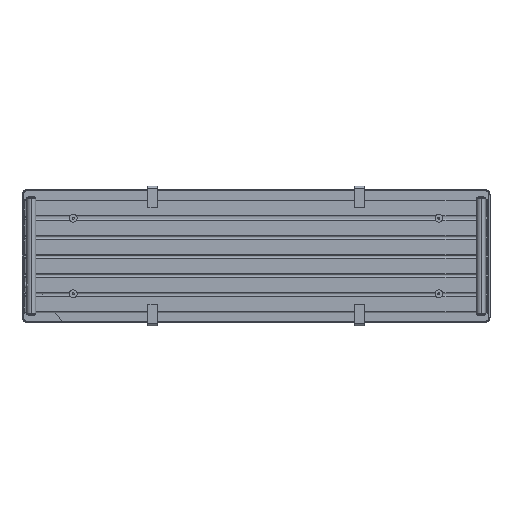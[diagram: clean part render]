
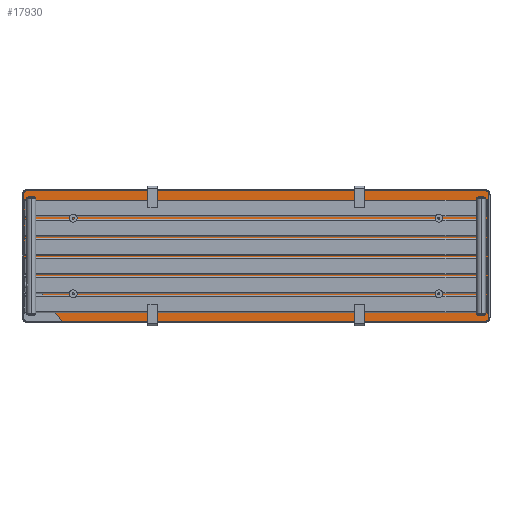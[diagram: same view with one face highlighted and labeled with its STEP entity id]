
A CAD part, left-side view. The second image highlights one B-rep face of the part: STEP entity #17930.
In plain terms, the highlighted planar face has unit normal (-1, 0, 0) as drawn and (0, 0, -1) by its records, which use the part's own axes.
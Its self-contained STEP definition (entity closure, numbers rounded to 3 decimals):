
#444 = EDGE_CURVE ( 'NONE', #9313, #4637, #2304, .T. ) ;
#529 = CARTESIAN_POINT ( 'NONE',  ( 256., -895., 42. ) ) ;
#1282 = VECTOR ( 'NONE', #17159, 1000. ) ;
#1664 = EDGE_CURVE ( 'NONE', #18488, #16805, #7168, .T. ) ;
#2304 = LINE ( 'NONE', #20438, #7841 ) ;
#2549 = DIRECTION ( 'NONE',  ( -1., 0., 0. ) ) ;
#2697 = AXIS2_PLACEMENT_3D ( 'NONE', #9433, #5908, #14839 ) ;
#2980 = ORIENTED_EDGE ( 'NONE', *, *, #17771, .F. ) ;
#3009 = PLANE ( 'NONE',  #22100 ) ;
#3394 = CARTESIAN_POINT ( 'NONE',  ( -240., -911., 42. ) ) ;
#3703 = CARTESIAN_POINT ( 'NONE',  ( -240., -895., 42. ) ) ;
#3960 = CARTESIAN_POINT ( 'NONE',  ( -240., 911., 42. ) ) ;
#3994 = EDGE_CURVE ( 'NONE', #16805, #16055, #21126, .T. ) ;
#4092 = CARTESIAN_POINT ( 'NONE',  ( -240., 911., 42. ) ) ;
#4637 = VERTEX_POINT ( 'NONE', #11803 ) ;
#5479 = EDGE_CURVE ( 'NONE', #16055, #16491, #20813, .T. ) ;
#5601 = CARTESIAN_POINT ( 'NONE',  ( 53.015, 911., 42. ) ) ;
#5860 = ORIENTED_EDGE ( 'NONE', *, *, #444, .F. ) ;
#5908 = DIRECTION ( 'NONE',  ( 0., 0., 1. ) ) ;
#7168 = LINE ( 'NONE', #3394, #13512 ) ;
#7613 = DIRECTION ( 'NONE',  ( 0., -1., 0. ) ) ;
#7841 = VECTOR ( 'NONE', #7613, 1000. ) ;
#7995 = EDGE_LOOP ( 'NONE', ( #2980, #9008, #15873, #11533, #18878, #15705, #5860, #11209 ) ) ;
#8156 = LINE ( 'NONE', #9918, #19382 ) ;
#8159 = EDGE_CURVE ( 'NONE', #22570, #9313, #19301, .T. ) ;
#8318 = CARTESIAN_POINT ( 'NONE',  ( -240., -895., 42. ) ) ;
#8814 = CARTESIAN_POINT ( 'NONE',  ( -240., -911., 42. ) ) ;
#9008 = ORIENTED_EDGE ( 'NONE', *, *, #21777, .T. ) ;
#9272 = VECTOR ( 'NONE', #2549, 1000. ) ;
#9313 = VERTEX_POINT ( 'NONE', #15754 ) ;
#9433 = CARTESIAN_POINT ( 'NONE',  ( 240., -895., 42. ) ) ;
#9637 = CIRCLE ( 'NONE', #15272, 16. ) ;
#9676 = CARTESIAN_POINT ( 'NONE',  ( 256., 758.993, 42. ) ) ;
#9918 = CARTESIAN_POINT ( 'NONE',  ( 53.015, 911., 42. ) ) ;
#10075 = FACE_OUTER_BOUND ( 'NONE', #7995, .T. ) ;
#10310 = DIRECTION ( 'NONE',  ( -1., 0., 0. ) ) ;
#10867 = DIRECTION ( 'NONE',  ( 0., 0., 1. ) ) ;
#11209 = ORIENTED_EDGE ( 'NONE', *, *, #8159, .F. ) ;
#11533 = ORIENTED_EDGE ( 'NONE', *, *, #3994, .F. ) ;
#11803 = CARTESIAN_POINT ( 'NONE',  ( -256., -895., 42. ) ) ;
#12503 = DIRECTION ( 'NONE',  ( -1., 0., 0. ) ) ;
#13020 = LINE ( 'NONE', #4092, #9272 ) ;
#13512 = VECTOR ( 'NONE', #21521, 1000. ) ;
#13644 = AXIS2_PLACEMENT_3D ( 'NONE', #14701, #16033, #12503 ) ;
#14701 = CARTESIAN_POINT ( 'NONE',  ( -240., 895., 42. ) ) ;
#14839 = DIRECTION ( 'NONE',  ( -1., 0., 0. ) ) ;
#15272 = AXIS2_PLACEMENT_3D ( 'NONE', #3703, #10867, #18048 ) ;
#15323 = DIRECTION ( 'NONE',  ( 0.8, -0.599, 0. ) ) ;
#15705 = ORIENTED_EDGE ( 'NONE', *, *, #16291, .F. ) ;
#15754 = CARTESIAN_POINT ( 'NONE',  ( -256., 895., 42. ) ) ;
#15873 = ORIENTED_EDGE ( 'NONE', *, *, #5479, .F. ) ;
#15896 = VERTEX_POINT ( 'NONE', #5601 ) ;
#16033 = DIRECTION ( 'NONE',  ( 0., 0., 1. ) ) ;
#16055 = VERTEX_POINT ( 'NONE', #529 ) ;
#16291 = EDGE_CURVE ( 'NONE', #4637, #18488, #9637, .T. ) ;
#16491 = VERTEX_POINT ( 'NONE', #9676 ) ;
#16805 = VERTEX_POINT ( 'NONE', #18394 ) ;
#17159 = DIRECTION ( 'NONE',  ( 0., 1., 0. ) ) ;
#17771 = EDGE_CURVE ( 'NONE', #15896, #22570, #13020, .T. ) ;
#17930 = ADVANCED_FACE ( 'NONE', ( #10075 ), #3009, .T. ) ;
#18048 = DIRECTION ( 'NONE',  ( -1., 0., 0. ) ) ;
#18394 = CARTESIAN_POINT ( 'NONE',  ( 240., -911., 42. ) ) ;
#18488 = VERTEX_POINT ( 'NONE', #8814 ) ;
#18878 = ORIENTED_EDGE ( 'NONE', *, *, #1664, .F. ) ;
#19158 = CARTESIAN_POINT ( 'NONE',  ( 256., -895., 42. ) ) ;
#19301 = CIRCLE ( 'NONE', #13644, 16. ) ;
#19382 = VECTOR ( 'NONE', #15323, 1000. ) ;
#20438 = CARTESIAN_POINT ( 'NONE',  ( -256., -895., 42. ) ) ;
#20813 = LINE ( 'NONE', #19158, #1282 ) ;
#21126 = CIRCLE ( 'NONE', #2697, 16. ) ;
#21521 = DIRECTION ( 'NONE',  ( 1., 0., 0. ) ) ;
#21777 = EDGE_CURVE ( 'NONE', #15896, #16491, #8156, .T. ) ;
#22100 = AXIS2_PLACEMENT_3D ( 'NONE', #8318, #22906, #10310 ) ;
#22570 = VERTEX_POINT ( 'NONE', #3960 ) ;
#22906 = DIRECTION ( 'NONE',  ( 0., 0., -1. ) ) ;
